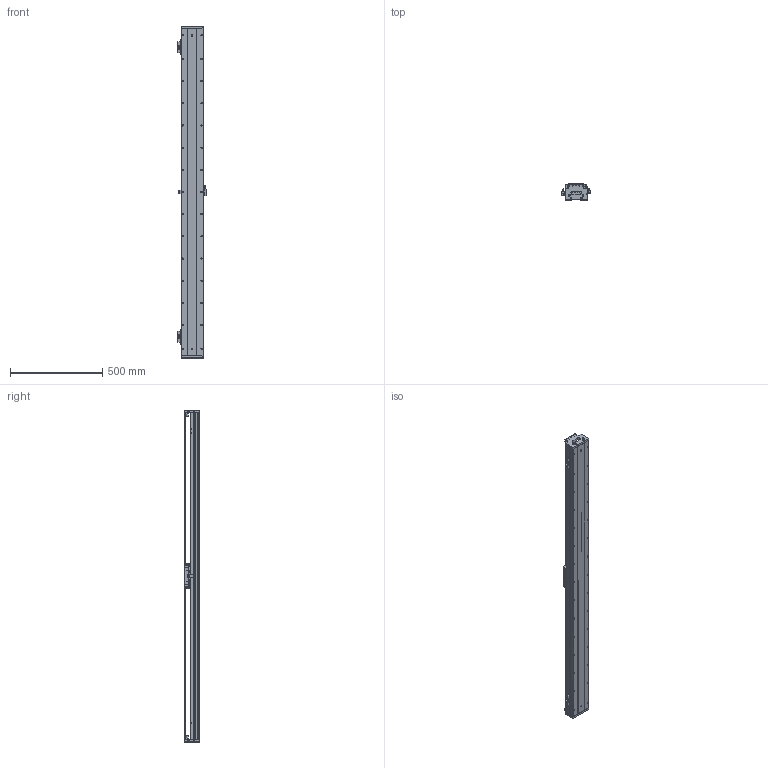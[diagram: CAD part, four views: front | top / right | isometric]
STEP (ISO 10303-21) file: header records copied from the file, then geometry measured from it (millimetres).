
FILE_DESCRIPTION (( 'STEP AP203' ), '1' );
FILE_NAME ('DKW120-B15-W060（T1560-L005-0.2）.STEP', '2021-09-07T06:23:23', ( '微软用户' ), ( '微软中国' ), 'SwSTEP 2.0', 'SolidWorks 2018', '' );
FILE_SCHEMA (( 'CONFIG_CONTROL_DESIGN' ));
Length unit declared in the file: millimetre
Products named in the file (24): RUS嫖掑郪璃; 10940-0001-004-00 120詩湍裔啣; DKW119-HT-C15-00 賑怢啣; DKW119-RU-DTJ-00 RU2黍杅芛盓殤; 砎蝶猾沭; MSB15TS2FC+U92.7-16.35_16.35N_(0_45.85_0_01G-M4); 10980-0001-003-00 嫖萇羲壽嘐隅釱; 12160-0000-003-00 DKW120詩湍嶺輸; BKM015-W060-C1-TP-3; EE_SX674A; 12160-0000-004-00  DKW120詩湍揤輸; B15-W060; DKW120-B15-W060（T1560-L005-0.2）; DKW120 单轴模组-拉钢带组件; MSB15-DG-U; BKMA01-W060-TRL280; 06652-0001-001-00 DKW120傷啣; DKW120-B15-T300-DZ-00 菁釱; RUS嫖掑喜; 06652-0001-004-00 DKW120嶺輸菜輸; DKW-SG-GYP-H-00 嫖萇覜茼え; Ru2; DKW-HXJ-JY-00 遣喳砎蝶; DKW-HYB-JY-A-00 賑輸揤啣A
Assembly tree (41 placements, depth 3):
  DKW120-B15-W060（T1560-L005-0.2）
    DKW120-B15-T300-DZ-00 菁釱
    B15-W060
      DKW-SG-GYP-H-00 嫖萇覜茼え
      DKW-HYB-JY-A-00 賑輸揤啣A  x2
      DKW119-HT-C15-00 賑怢啣
      MSB15TS2FC+U92.7-16.35_16.35N_(0_45.85_0_01G-M4)  x4
      BKM015-W060-C1-TP-3
    MSB15-DG-U  x2
    DKW120 单轴模组-拉钢带组件
      06652-0001-001-00 DKW120傷啣  x2
      06652-0001-004-00 DKW120嶺輸菜輸  x4
      DKW-HXJ-JY-00 遣喳砎蝶  x4
      10940-0001-004-00 120詩湍裔啣
      砎蝶猾沭  x2
      12160-0000-003-00 DKW120詩湍嶺輸  x2
      12160-0000-004-00  DKW120詩湍揤輸  x2
    BKMA01-W060-TRL280
    RUS嫖掑郪璃
      RUS嫖掑喜
      Ru2
    DKW119-RU-DTJ-00 RU2黍杅芛盓殤
    10980-0001-003-00 嫖萇羲壽嘐隅釱  x2
    EE_SX674A  x3
Bounding box: 154.11 x 84 x 1796 mm (x, y, z)
Volume: 6108680.9 mm3; surface area: 2452352.1 mm2
Topology: 49 solids, 98 shells, 4396 faces, 12021 edges, 7745 vertices
Faces by surface type: plane 2411, cylinder 1352, cone 366, bspline 267
Entity records: 123598 total; most frequent: CARTESIAN_POINT 44703, ORIENTED_EDGE 16287, DIRECTION 14925, EDGE_CURVE 8184, VERTEX_POINT 5372, VECTOR 4999, LINE 4999, AXIS2_PLACEMENT_3D 4963
